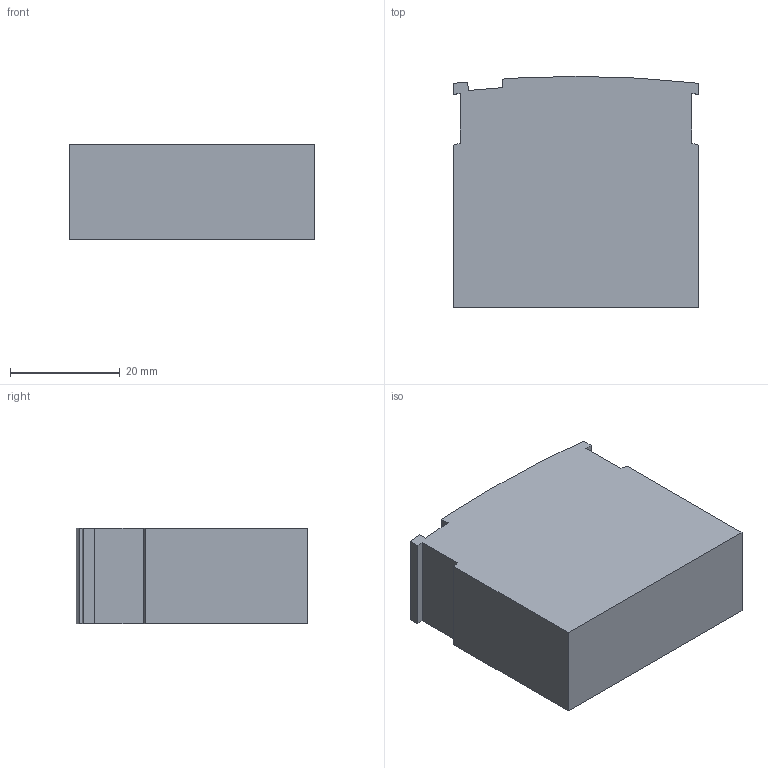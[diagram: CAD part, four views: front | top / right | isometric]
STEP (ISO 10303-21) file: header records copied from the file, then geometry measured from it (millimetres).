
FILE_DESCRIPTION(('OneSpaceDesigner STEP Export'),'2;1');
FILE_NAME('2856045_pt_1-2-12ac-st_bk_select.stp','2004-11-02T13:27:13',(''),(''),'OneSpace Designer STEP processor (Jan. 2003) for AP203(Solid Model)','OneSpace Designer 12.01C 26-Mar-2004 (C) CoCreate Software GmbH','');
FILE_SCHEMA(('CONFIG_CONTROL_DESIGN'));
Length unit declared in the file: millimetre
Products named in the file (2): 2856045_pt_1-2-12ac-st_bk_select
Assembly tree (1 placements, depth 2):
  2856045_pt_1-2-12ac-st_bk_select
    2856045_pt_1-2-12ac-st_bk_select
Bounding box: 44.8 x 42.2 x 17.5 mm (x, y, z)
Volume: 32142.1 mm3; surface area: 6812.7 mm2
Topology: 1 solids, 1 shells, 21 faces, 57 edges, 38 vertices
Faces by surface type: plane 19, cylinder 2
Entity records: 1032 total; most frequent: CARTESIAN_POINT 115, ORIENTED_EDGE 114, DIRECTION 103, EDGE_CURVE 57, VECTOR 51, LINE 51, VERTEX_POINT 38, AXIS2_PLACEMENT_3D 26
